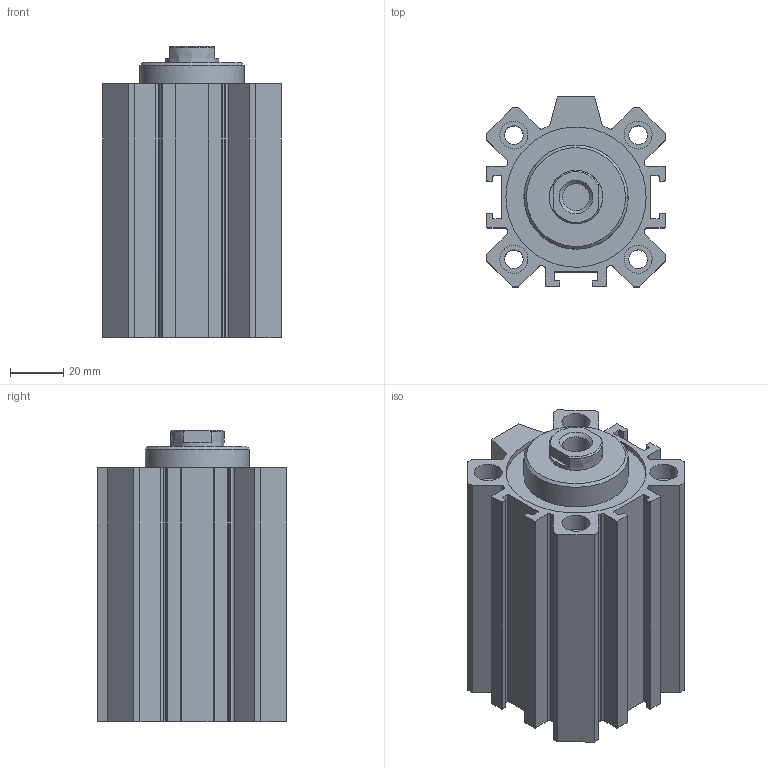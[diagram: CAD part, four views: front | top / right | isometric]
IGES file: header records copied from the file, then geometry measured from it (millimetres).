
Global section: file name: 1511_50_0055; native system: Autodesk Inventor 2014; preprocessor: unknown; author: A. Manieri; date: 20160824.134055; units: millimetre
Bounding box: 67 x 71 x 109 mm (x, y, z)
Volume: 248239.6 mm3; surface area: 81981.1 mm2
Topology: 2 solids, 2 shells, 165 faces, 443 edges, 300 vertices
Faces by surface type: bspline 165
